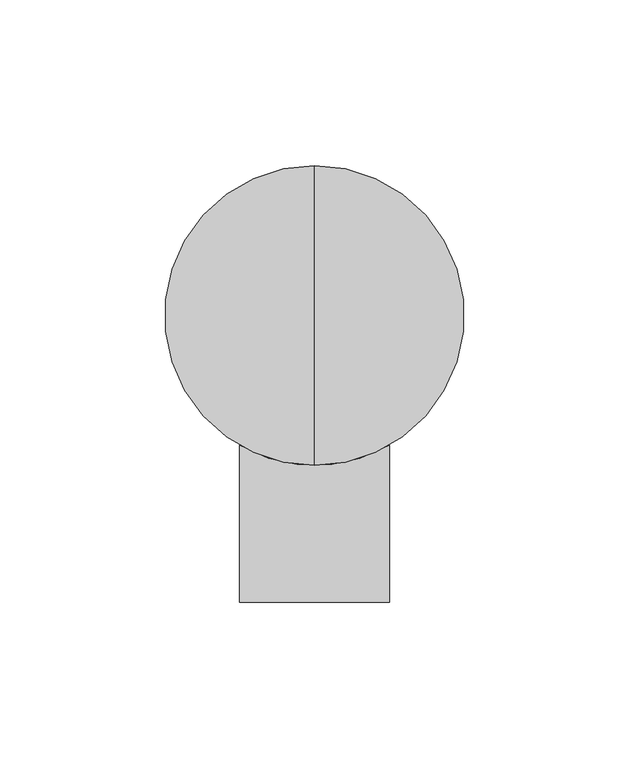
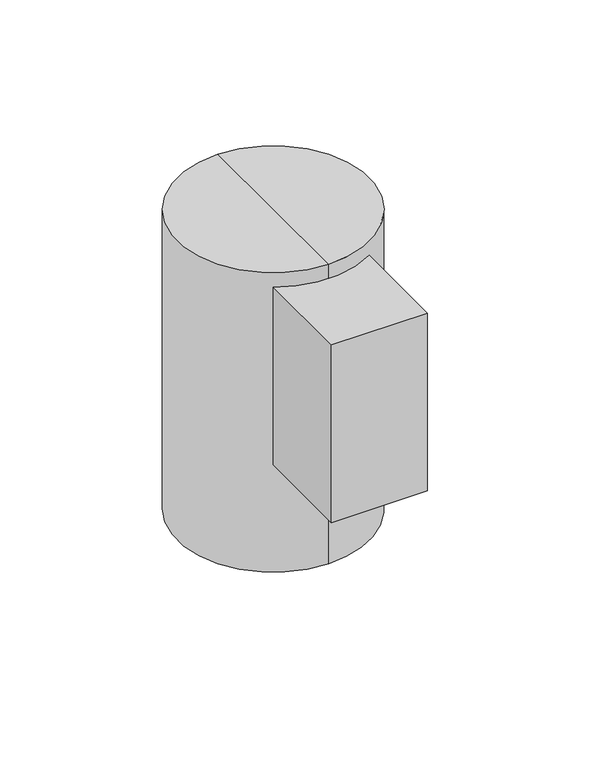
"""IFC4 building model written with IfcOpenShell, lengths in millimetres: light fixture geometry, WD1340 _4 Round 1-Direction Wall Mount_IP65 - 1000Lm_Wall-based family : WD1340B-B02-EU-T17-EMAC_Wall-based family."""

from ifc_helpers import new_model, si_unit, point, frame, frame_2d, origin, origin_with_axes, place, context, project, spatial, polyline, circle_curve, trimmed, segment, composite_curve, outline, extrude, source, transform, mapped, element, save
from ifc_brep_helpers import plane_surface, cylinder_surface, revolved_surface, advanced_brep


def light_fixture_ac3ce4d8(model_context):
    return source(origin(), model_context, "Body", "SolidModel", [
        advanced_brep(
        [(125.0, 188.1373464, 63.0988682), (125.0, 194.4873464, 63.0988682), (125.0, 181.7873464, 63.0988682), (125.0, 181.3485741, 63.9346815), (125.0, 194.9261187, 63.9346815), (125.0, 188.1373464, 63.9346815), (125.0, 147.7415419, 4.6124294), (125.0, 228.5331509, 4.6124294), (125.0, 147.7415419, 3.0021067), (125.0, 228.5331509, 3.0021067)],
        [
            (0, 1),
            (1, 2, circle_curve(frame((125.0, 188.1373464, 63.0988682), z_axis=(0.0, 0.0, -1.0), x_axis=(0.0, 1.0, 0.0)), 6.35)),
            (2, 0),
            (2, 1, circle_curve(frame((125.0, 188.1373464, 63.0988682), z_axis=(0.0, 0.0, -1.0), x_axis=(0.0, 1.0, 0.0)), 6.35)),
            (3, 4, circle_curve(frame((125.0, 188.1373464, 63.9346815), z_axis=(0.0, 0.0, 1.0), x_axis=(0.0, 1.0, 0.0)), 6.7887723)),
            (4, 5),
            (5, 3),
            (4, 3, circle_curve(frame((125.0, 188.1373464, 63.9346815), z_axis=(0.0, 0.0, 1.0), x_axis=(0.0, 1.0, 0.0)), 6.7887723)),
            (6, 7, circle_curve(frame((125.0, 188.1373464, 4.6124294), z_axis=(0.0, 0.0, 1.0), x_axis=(0.0, 1.0, 0.0)), 40.3958045)),
            (7, 4),
            (3, 6),
            (7, 6, circle_curve(frame((125.0, 188.1373464, 4.6124294), z_axis=(0.0, 0.0, 1.0), x_axis=(0.0, 1.0, 0.0)), 40.3958045)),
            (8, 9, circle_curve(frame((125.0, 188.1373464, 3.0021067), z_axis=(0.0, 0.0, 1.0), x_axis=(0.0, 1.0, 0.0)), 40.3958045)),
            (9, 7),
            (6, 8),
            (9, 8, circle_curve(frame((125.0, 188.1373464, 3.0021067), z_axis=(0.0, 0.0, 1.0), x_axis=(0.0, 1.0, 0.0)), 40.3958045)),
            (1, 9),
            (8, 2),
        ],
        [
            plane_surface(frame((125.0, 188.1373464, 63.0988682), z_axis=(0.0, 0.0, -1.0), x_axis=(0.0, 1.0, 0.0))),
            plane_surface(frame((125.0, 188.1373464, 63.9346815), z_axis=(0.0, 0.0, 1.0), x_axis=(0.0, 1.0, 0.0))),
            revolved_surface(polyline([(125.0, 194.9261187, 63.9346815), (125.0, 228.5331509, 4.6124294)]), (125.0, 188.1373464, 92.8545589), (0.0, 0.0, -1.0)),
            cylinder_surface(frame((125.0, 188.1373464, 92.8545589), z_axis=(0.0, 0.0, -1.0), x_axis=(0.0, 1.0, 0.0)), 40.3958045),
            revolved_surface(polyline([(125.0, 228.5331509, 3.0021067), (125.0, 194.4873464, 63.0988682)]), (125.0, 188.1373464, 92.8545589), (0.0, 0.0, -1.0)),
        ],
        [
            (0, [[1, 2, 3]]),
            (0, [[-3, 4, -1]]),
            (1, [[5, 6, 7]]),
            (1, [[8, -7, -6]]),
            (2, [[9, 10, -5, 11]]),
            (2, [[12, -11, -8, -10]]),
            (3, [[13, 14, -9, 15]]),
            (3, [[16, -15, -12, -14]]),
            (4, [[-2, 17, -13, 18]]),
            (4, [[-4, -18, -16, -17]]),
        ],
    ),
        extrude(outline(composite_curve([segment(trimmed(circle_curve(frame_2d((125.0, 188.1373464)), 6.35), [point((131.35, 188.1373464))], [point((118.65, 188.1373464))], False, "CARTESIAN"), True, "CONTINUOUS"), segment(trimmed(circle_curve(frame_2d((125.0, 188.1373464)), 6.35), [point((118.65, 188.1373464))], [point((131.35, 188.1373464))], False, "CARTESIAN"), True, "CONTINUOUS")], self_intersect=False)), frame((0.0, 0.0, 53.4410025), z_axis=(0.0, 0.0, 1.0), x_axis=(1.0, 0.0, 0.0)), (0.0, 0.0, 1.0), 9.6578657),
        extrude(outline(composite_curve([segment(trimmed(circle_curve(frame_2d((125.0, 188.1373464)), 40.3958045), [point((165.3958045, 188.1373464))], [point((84.6041955, 188.1373464))], False, "CARTESIAN"), True, "CONTINUOUS"), segment(trimmed(circle_curve(frame_2d((125.0, 188.1373464)), 40.3958045), [point((84.6041955, 188.1373464))], [point((165.3958045, 188.1373464))], False, "CARTESIAN"), True, "CONTINUOUS")], self_intersect=False)), origin_with_axes(), (0.0, 0.0, 1.0), 3.0021067),
        extrude(outline(composite_curve([segment(polyline([(102.4035428, 101.6), (102.4035428, 148.9619122)]), True, "CONTINUOUS"), segment(trimmed(circle_curve(frame_2d((125.0, 188.1373464)), 45.2251536), [point((102.4035428, 148.9619122))], [point((147.5964572, 148.9619122))], True, "CARTESIAN"), True, "CONTINUOUS"), segment(polyline([(147.5964572, 148.9619122), (147.5964572, 101.6), (102.4035428, 101.6)]), True, "CONTINUOUS")], self_intersect=False)), frame((0.0, 0.0, 53.4410025), z_axis=(0.0, 0.0, 1.0), x_axis=(1.0, 0.0, 0.0)), (0.0, 0.0, 1.0), 88.5811622),
        advanced_brep(
        [(125.0, 147.7415419, 88.4032374), (125.0, 228.5331509, 88.4032374), (125.0, 228.5331509, 0.0), (125.0, 147.7415419, 0.0), (125.0, 188.1373464, 88.4032374), (125.0, 142.9121928, 149.225), (125.0, 233.3625, 149.225), (125.0, 188.1373464, 149.225), (125.0, 142.9121928, 0.0), (125.0, 233.3625, 0.0)],
        [
            (0, 1, circle_curve(frame((125.0, 188.1373464, 88.4032374), z_axis=(0.0, 0.0, 1.0), x_axis=(0.0, 1.0, 0.0)), 40.3958045)),
            (1, 2),
            (2, 3, circle_curve(frame((125.0, 188.1373464, 0.0), z_axis=(0.0, 0.0, -1.0), x_axis=(0.0, 1.0, 0.0)), 40.3958045)),
            (3, 0),
            (1, 0, circle_curve(frame((125.0, 188.1373464, 88.4032374), z_axis=(0.0, 0.0, 1.0), x_axis=(0.0, 1.0, 0.0)), 40.3958045)),
            (3, 2, circle_curve(frame((125.0, 188.1373464, 0.0), z_axis=(0.0, 0.0, -1.0), x_axis=(0.0, 1.0, 0.0)), 40.3958045)),
            (4, 1),
            (0, 4),
            (5, 6, circle_curve(frame((125.0, 188.1373464, 149.225), z_axis=(0.0, 0.0, 1.0), x_axis=(0.0, 1.0, 0.0)), 45.2251536)),
            (6, 7),
            (7, 5),
            (6, 5, circle_curve(frame((125.0, 188.1373464, 149.225), z_axis=(0.0, 0.0, 1.0), x_axis=(0.0, 1.0, 0.0)), 45.2251536)),
            (8, 9, circle_curve(frame((125.0, 188.1373464, 0.0), z_axis=(0.0, 0.0, 1.0), x_axis=(0.0, 1.0, 0.0)), 45.2251536)),
            (9, 6),
            (5, 8),
            (9, 8, circle_curve(frame((125.0, 188.1373464, 0.0), z_axis=(0.0, 0.0, 1.0), x_axis=(0.0, 1.0, 0.0)), 45.2251536)),
            (2, 9),
            (8, 3),
        ],
        [
            revolved_surface(polyline([(125.0, 228.5331509, 0.0), (125.0, 228.5331509, 88.4032374)]), (125.0, 188.1373464, 200.025), (0.0, 0.0, -1.0)),
            plane_surface(frame((125.0, 188.1373464, 88.4032374), z_axis=(0.0, 0.0, -1.0), x_axis=(0.0, 1.0, 0.0))),
            plane_surface(frame((125.0, 188.1373464, 149.225), z_axis=(0.0, 0.0, 1.0), x_axis=(0.0, 1.0, 0.0))),
            cylinder_surface(frame((125.0, 188.1373464, 200.025), z_axis=(0.0, 0.0, -1.0), x_axis=(0.0, 1.0, 0.0)), 45.2251536),
            plane_surface(frame((125.0, 188.1373464, 0.0), z_axis=(0.0, 0.0, -1.0), x_axis=(0.0, 1.0, 0.0))),
        ],
        [
            (0, [[1, 2, 3, 4]]),
            (0, [[5, -4, 6, -2]]),
            (1, [[7, -1, 8]]),
            (1, [[-8, -5, -7]]),
            (2, [[9, 10, 11]]),
            (2, [[12, -11, -10]]),
            (3, [[13, 14, -9, 15]]),
            (3, [[16, -15, -12, -14]]),
            (4, [[-3, 17, -13, 18]]),
            (4, [[-6, -18, -16, -17]]),
        ],
    ),
    ])


if __name__ == "__main__":
    model = new_model("IFC4")
    model_context = context("Model", 3, world=origin())
    ifc_project = project(units=[si_unit("LENGTHUNIT", "METRE", prefix="MILLI")], contexts=[model_context])
    site = spatial("IfcSite", under=ifc_project)
    building = spatial("IfcBuilding", under=site)
    placement = place(None, origin())
    light_fixture_shape = light_fixture_ac3ce4d8(model_context)
    element("IfcLightFixture", 1, ObjectType="WD1340 _4 Round 1-Direction Wall Mount_IP65 - 1000Lm_Wall-based family : WD1340B-B02-EU-T17-EMAC_Wall-based family", at=placement, inside=building, context=model_context, shape_type="MappedRepresentation", body=[
        mapped(light_fixture_shape, transform((0.0, 0.0, 0.0), x_axis=(1.0, 0.0, 0.0), y_axis=(0.0, 1.0, 0.0), z_axis=(0.0, 0.0, 1.0))),
    ])
    save(model, "model.ifc")
